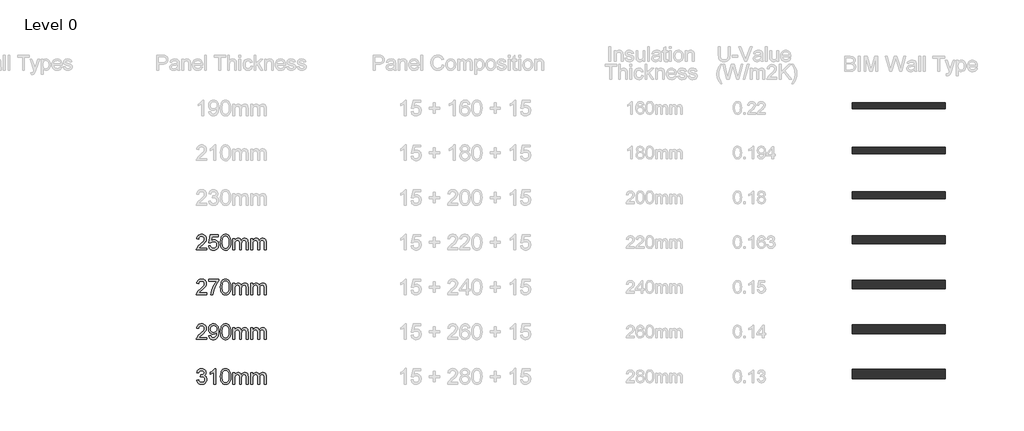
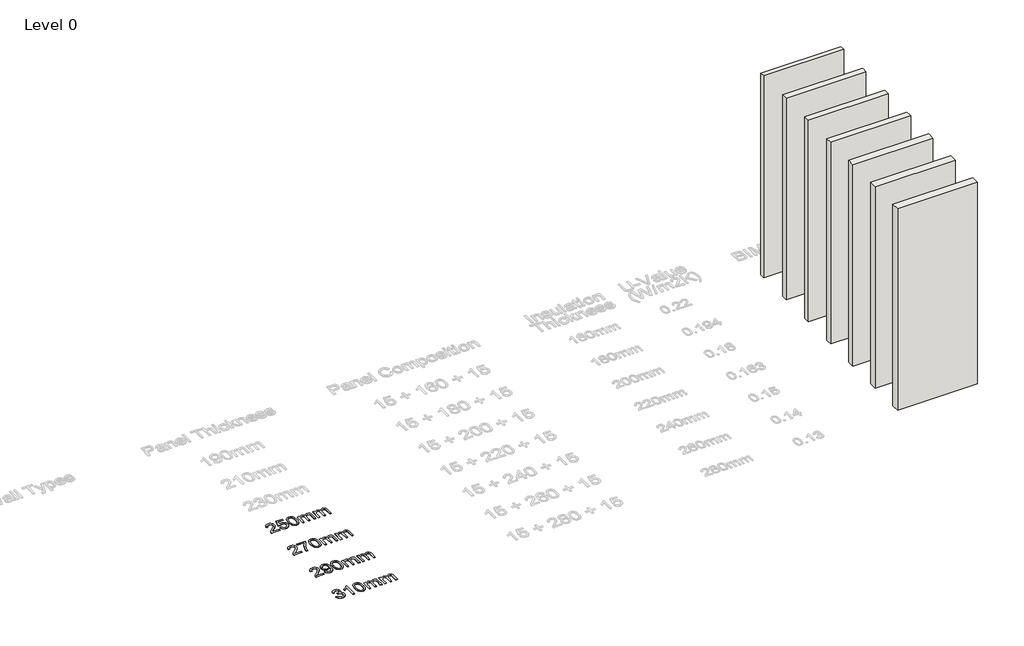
# One storey, part 1 of 11: 7 walls, 4 proxies.
"""IFC4 building model written with IfcOpenShell, lengths in millimetres."""

from ifc_helpers import new_model, si_unit, origin, origin_with_axes, place, context, project, spatial, polyline, outline, extrude, element, save

model = new_model("IFC4")

# Units and contexts
model_context = context("Model", 3, world=origin())
ifc_project = project(units=[si_unit("LENGTHUNIT", "METRE", prefix="MILLI")], contexts=[model_context])

# Site, building, storey
site = spatial("IfcSite", under=ifc_project)
building = spatial("IfcBuilding", under=site)
storey = spatial("IfcBuildingStorey", under=building, Name="Level 0", Elevation=0.0)

# Proxies
placement = place(None, origin())
element("IfcBuildingElementProxy", 1, Name="600mm Arial-500", ObjectType="600mm Arial-500", at=placement, inside=storey, context=model_context, shape_type="SweptSolid", body=[
    extrude(outline(polyline([(20710.5117881, -49.7161207), (20710.5117881, -112.5013146), (20380.8895204, -112.5013146), (20382.2690779, -90.397738), (20387.6340237, -69.2138665), (20403.1310527, -35.3840513), (20425.8324375, -2.5659117), (20458.6505771, 31.7850696), (20504.4978708, 70.2134097), (20572.2341432, 130.3927727), (20612.8391184, 174.8145237), (20633.1186134, 210.8669592), (20638.1884871, 228.525295), (20639.878445, 245.9383761), (20638.2804576, 262.3206212), (20633.4864954, 277.3769582), (20625.4965583, 291.1073873), (20614.3106464, 303.5119083), (20600.5495605, 313.7857794), (20584.8341015, 321.1242588), (20567.1642694, 325.5273465), (20547.5400642, 326.9950423), (20508.3759602, 321.2622146), (20492.0703571, 314.0961799), (20477.9490535, 304.0637313), (20466.5255511, 291.502094), (20458.313352, 276.7484932), (20453.3124561, 259.8029288), (20451.5228635, 240.6654008), (20388.7376696, 248.51355), (20394.1371043, 280.9254867), (20403.9587872, 309.2447361), (20418.2027182, 333.4712983), (20436.8688973, 353.6051733), (20459.528129, 369.4317633), (20485.7512175, 380.7364705), (20515.5381628, 387.5192948), (20548.8889649, 389.7802362), (20582.5386711, 387.2663759), (20612.4865648, 379.724795), (20638.7326459, 367.1554935), (20661.2769144, 349.5584714), (20679.3836064, 328.2366441), (20692.3169577, 304.492927), (20700.0769686, 278.3273201), (20702.6636389, 249.7398234), (20699.8738671, 219.7114555), (20691.5045517, 190.2042538), (20676.6513161, 160.1912144), (20654.4097838, 128.6453333), (20618.9551565, 90.983414), (20564.462636, 42.6222601), (20492.2351376, -17.7717008), (20463.908224, -49.7161207), (20710.5117881, -49.7161207)])), origin_with_axes(), (0.0, 0.0, 1.0), 8.0),
    extrude(outline(polyline([(20773.2969819, 20.9172224), (20836.0821758, 28.7653716), (20847.609145, -8.9272045), (20856.591597, -23.7612795), (20867.7200274, -35.9205459), (20880.9714434, -45.3896752), (20896.3228525, -52.1533389), (20933.3256498, -57.56427), (20957.2379795, -55.6827068), (20978.3298806, -50.0380175), (20996.601353, -40.6302019), (21012.0523968, -27.45926), (21024.3381226, -11.1766496), (21033.113641, 7.5661716), (21038.3789521, 28.7692037), (21040.1340558, 52.4324466), (21038.4900831, 74.7966062), (21033.5581651, 94.6775624), (21025.3383018, 112.0753151), (21013.8304931, 126.9898643), (20998.9964181, 138.9536933), (20980.7977556, 147.4992855), (20959.2345058, 152.6266408), (20934.3066685, 154.3357593), (20903.849105, 151.6073011), (20879.1856829, 143.4219267), (20859.4886677, 130.8832821), (20843.930325, 115.0950131), (20781.1451312, 122.9431623), (20836.0821758, 381.932087), (21079.3748019, 381.932087), (21079.3748019, 319.1468931), (20886.8498911, 319.1468931), (20859.8718781, 180.8232629), (20882.0291041, 196.7035024), (20904.7228247, 208.0465306), (20927.9530399, 214.8523475), (20951.7197496, 217.1209531), (20982.2999404, 214.3081887), (21010.3969278, 205.8698954), (21036.0107117, 191.8060733), (21059.1412922, 172.1167224), (21078.2941486, 148.0051233), (21091.9747603, 120.6745567), (21100.1831273, 90.1250227), (21102.9192496, 56.3565212), (21100.4590388, 23.8296215), (21093.0784062, -6.4286726), (21080.777352, -34.4183611), (21063.5558761, -60.1394439), (21037.4669113, -86.4813276), (21007.0246762, -105.2969588), (20972.2291708, -116.5863376), (20933.0803952, -120.3494638), (20900.6799549, -117.9314061), (20871.4141757, -110.677233), (20845.2830578, -98.5869445), (20822.286601, -81.6605406), (20803.1529051, -60.7410843), (20788.61007, -36.6716383), (20778.6580956, -9.4522028), (20773.2969819, 20.9172224)])), origin_with_axes(), (0.0, 0.0, 1.0), 8.0),
    extrude(outline(polyline([(21157.8562942, 134.5927589), (21162.4701476, 214.9903032), (21176.3117077, 279.1090693), (21186.6583888, 305.3091651), (21199.2430187, 327.9300757), (21214.0655974, 346.9718011), (21231.1261249, 362.4343412), (21250.4820828, 374.3981703), (21272.1909526, 382.9437624), (21296.2527344, 388.0711177), (21322.6674281, 389.7802362), (21361.3563512, 385.7335342), (21395.9985724, 373.5934284), (21424.9692796, 353.8350996), (21446.6436604, 326.9337287), (21463.0144092, 293.1192419), (21476.0742201, 252.6215656), (21484.6274764, 201.1947284), (21487.4785619, 134.5927589), (21482.9106938, 54.655067), (21469.2070895, -9.3104149), (21458.9408826, -35.5220071), (21446.4137342, -58.1774066), (21431.6256444, -77.2766135), (21414.5766132, -92.8196278), (21395.1976627, -104.8639311), (21373.419815, -113.4670048), (21349.2430701, -118.628849), (21322.6674281, -120.3494638), (21288.0865205, -117.3604226), (21257.4296876, -108.393299), (21230.6969293, -93.4480929), (21207.8882456, -72.5248044), (21185.9992669, -34.7019368), (21170.3642821, 12.4252796), (21160.9832912, 68.8568448), (21157.8562942, 134.5927589)]), holes=[polyline([(21220.6414881, 134.7153862), (21222.480898, 80.1347273), (21227.999128, 35.9543989), (21237.1961779, 2.1744011), (21250.0720477, -21.2052661), (21265.6457188, -37.1123303), (21282.9361726, -48.474519), (21301.943409, -55.2918322), (21322.6674281, -57.56427), (21343.3914471, -55.284168), (21362.3986835, -48.4438622), (21379.6891373, -37.0433524), (21395.2628084, -21.0826388), (21408.1386783, 2.3353495), (21417.3357282, 36.1076831), (21422.8539581, 80.234362), (21424.6933681, 134.7153862), (21422.9152718, 187.8513419), (21417.5809828, 231.2537531), (21408.6905013, 264.9226199), (21396.2438271, 288.8579422), (21380.9307391, 305.5429235), (21363.4410159, 317.4607673), (21343.7746575, 324.6114736), (21321.9316641, 326.9950423), (21301.3149439, 324.8950493), (21282.6296043, 318.5950701), (21265.8756451, 308.0951048), (21251.0530663, 293.3951534), (21237.7480008, 267.3368455), (21228.2443826, 232.2041149), (21222.5422117, 187.9969618), (21220.6414881, 134.7153862)])]), origin_with_axes(), (0.0, 0.0, 1.0), 8.0),
    extrude(outline(polyline([(21558.111905, -112.5013146), (21558.111905, 256.3616993), (21620.8970988, 256.3616993), (21620.8970988, 195.6611701), (21639.7817079, 223.5435596), (21664.0619196, 245.3865531), (21692.9099994, 259.5040246), (21725.4982128, 264.2098485), (21760.4163455, 259.4120541), (21788.406034, 245.0186711), (21809.313994, 221.9800611), (21822.9869415, 191.2465861), (21845.8722673, 223.1680134), (21871.9765605, 245.9690329), (21901.2998212, 259.6496446), (21933.8420494, 264.2098485), (21958.9768203, 262.312957), (21981.0382437, 256.6222823), (22000.0263196, 247.1378247), (22015.941048, 233.8595839), (22028.5218458, 216.6342759), (22037.5081299, 195.3086165), (22042.8999004, 169.8826057), (22044.6971573, 140.3562435), (22044.6971573, -112.5013146), (21981.9119634, -112.5013146), (21981.9119634, 113.3782305), (21980.4557639, 144.6941853), (21976.0871652, 165.8014148), (21967.9017908, 180.2561115), (21954.9952641, 191.6144681), (21938.3945891, 198.972108), (21919.1267696, 201.4246547), (21901.3343102, 199.853492), (21885.1130134, 195.1400039), (21870.4628794, 187.2841905), (21857.3839081, 176.2860516), (21846.6271918, 161.8236907), (21838.943823, 143.5752109), (21834.3338018, 121.5406122), (21832.797128, 95.7198947), (21832.797128, -112.5013146), (21770.0119342, -112.5013146), (21770.0119342, 120.3679884), (21766.3790995, 155.8686009), (21755.4805954, 181.1911449), (21747.0537984, 190.0433054), (21736.3047464, 196.3662772), (21707.839877, 201.4246547), (21683.6516358, 198.052403), (21661.3641183, 187.9356482), (21642.9700185, 171.3196447), (21630.4620307, 148.4496473), (21623.2883318, 116.7198253), (21620.8970988, 73.5243477), (21620.8970988, -112.5013146), (21558.111905, -112.5013146)])), origin_with_axes(), (0.0, 0.0, 1.0), 8.0),
    extrude(outline(polyline([(22138.874948, -112.5013146), (22138.874948, 256.3616993), (22201.6601419, 256.3616993), (22201.6601419, 195.6611701), (22220.544751, 223.5435596), (22244.8249626, 245.3865531), (22273.6730424, 259.5040246), (22306.2612558, 264.2098485), (22341.1793885, 259.4120541), (22369.169077, 245.0186711), (22390.0770371, 221.9800611), (22403.7499846, 191.2465861), (22426.6353103, 223.1680134), (22452.7396036, 245.9690329), (22482.0628643, 259.6496446), (22514.6050924, 264.2098485), (22539.7398633, 262.312957), (22561.8012867, 256.6222823), (22580.7893626, 247.1378247), (22596.704091, 233.8595839), (22609.2848888, 216.6342759), (22618.271173, 195.3086165), (22623.6629435, 169.8826057), (22625.4602003, 140.3562435), (22625.4602003, -112.5013146), (22562.6750065, -112.5013146), (22562.6750065, 113.3782305), (22561.2188069, 144.6941853), (22556.8502082, 165.8014148), (22548.6648338, 180.2561115), (22535.7583072, 191.6144681), (22519.1576321, 198.972108), (22499.8898126, 201.4246547), (22482.0973532, 199.853492), (22465.8760565, 195.1400039), (22451.2259225, 187.2841905), (22438.1469511, 176.2860516), (22427.3902349, 161.8236907), (22419.7068661, 143.5752109), (22415.0968448, 121.5406122), (22413.5601711, 95.7198947), (22413.5601711, -112.5013146), (22350.7749773, -112.5013146), (22350.7749773, 120.3679884), (22347.1421426, 155.8686009), (22336.2436384, 181.1911449), (22327.8168415, 190.0433054), (22317.0677894, 196.3662772), (22288.6029201, 201.4246547), (22264.4146789, 198.052403), (22242.1271613, 187.9356482), (22223.7330616, 171.3196447), (22211.2250738, 148.4496473), (22204.0513748, 116.7198253), (22201.6601419, 73.5243477), (22201.6601419, -112.5013146), (22138.874948, -112.5013146)])), origin_with_axes(), (0.0, 0.0, 1.0), 8.0),
])
element("IfcBuildingElementProxy", 2, Name="600mm Arial-500", ObjectType="600mm Arial-500", at=placement, inside=storey, context=model_context, shape_type="SweptSolid", body=[
    extrude(outline(polyline([(20710.5117881, -1489.7161207), (20710.5117881, -1552.5013146), (20380.8895204, -1552.5013146), (20382.2690779, -1530.397738), (20387.6340237, -1509.2138665), (20403.1310527, -1475.3840513), (20425.8324375, -1442.5659117), (20458.6505771, -1408.2149304), (20504.4978708, -1369.7865903), (20572.2341432, -1309.6072273), (20612.8391184, -1265.1854763), (20633.1186134, -1229.1330408), (20638.1884871, -1211.474705), (20639.878445, -1194.0616239), (20638.2804576, -1177.6793788), (20633.4864954, -1162.6230418), (20625.4965583, -1148.8926127), (20614.3106464, -1136.4880917), (20600.5495605, -1126.2142206), (20584.8341015, -1118.8757412), (20567.1642694, -1114.4726535), (20547.5400642, -1113.0049577), (20508.3759602, -1118.7377854), (20492.0703571, -1125.9038201), (20477.9490535, -1135.9362687), (20466.5255511, -1148.497906), (20458.313352, -1163.2515068), (20453.3124561, -1180.1970712), (20451.5228635, -1199.3345992), (20388.7376696, -1191.48645), (20394.1371043, -1159.0745133), (20403.9587872, -1130.7552639), (20418.2027182, -1106.5287017), (20436.8688973, -1086.3948267), (20459.528129, -1070.5682367), (20485.7512175, -1059.2635295), (20515.5381628, -1052.4807052), (20548.8889649, -1050.2197638), (20582.5386711, -1052.7336241), (20612.4865648, -1060.275205), (20638.7326459, -1072.8445065), (20661.2769144, -1090.4415286), (20679.3836064, -1111.7633559), (20692.3169577, -1135.507073), (20700.0769686, -1161.6726799), (20702.6636389, -1190.2601766), (20699.8738671, -1220.2885445), (20691.5045517, -1249.7957462), (20676.6513161, -1279.8087856), (20654.4097838, -1311.3546667), (20618.9551565, -1349.016586), (20564.462636, -1397.3777399), (20492.2351376, -1457.7717008), (20463.908224, -1489.7161207), (20710.5117881, -1489.7161207)])), origin_with_axes(), (0.0, 0.0, 1.0), 8.0),
    extrude(outline(polyline([(20773.2969819, -1120.8531069), (20773.2969819, -1058.067913), (21102.9192496, -1058.067913), (21102.9192496, -1108.8356284), (21055.9376531, -1168.2945559), (21009.4159092, -1243.9096343), (20968.3817383, -1328.7830762), (20937.8628611, -1416.0170944), (20922.9023266, -1481.2854917), (20914.5636681, -1552.5013146), (20851.7784742, -1552.5013146), (20858.5689627, -1487.7847402), (20876.7331362, -1410.8667464), (20905.7804855, -1329.3348992), (20945.220501, -1250.7767649), (20991.2670641, -1179.7602114), (21040.1340558, -1120.8531069), (20773.2969819, -1120.8531069)])), origin_with_axes(), (0.0, 0.0, 1.0), 8.0),
    extrude(outline(polyline([(21157.8562942, -1305.4072411), (21162.4701476, -1225.0096968), (21176.3117077, -1160.8909307), (21186.6583888, -1134.6908349), (21199.2430187, -1112.0699243), (21214.0655974, -1093.0281989), (21231.1261249, -1077.5656588), (21250.4820828, -1065.6018297), (21272.1909526, -1057.0562376), (21296.2527344, -1051.9288823), (21322.6674281, -1050.2197638), (21361.3563512, -1054.2664658), (21395.9985724, -1066.4065716), (21424.9692796, -1086.1649004), (21446.6436604, -1113.0662713), (21463.0144092, -1146.8807581), (21476.0742201, -1187.3784344), (21484.6274764, -1238.8052716), (21487.4785619, -1305.4072411), (21482.9106938, -1385.344933), (21469.2070895, -1449.3104149), (21458.9408826, -1475.5220071), (21446.4137342, -1498.1774066), (21431.6256444, -1517.2766135), (21414.5766132, -1532.8196278), (21395.1976627, -1544.8639311), (21373.419815, -1553.4670048), (21349.2430701, -1558.628849), (21322.6674281, -1560.3494638), (21288.0865205, -1557.3604226), (21257.4296876, -1548.393299), (21230.6969293, -1533.4480929), (21207.8882456, -1512.5248044), (21185.9992669, -1474.7019368), (21170.3642821, -1427.5747204), (21160.9832912, -1371.1431552), (21157.8562942, -1305.4072411)]), holes=[polyline([(21220.6414881, -1305.2846138), (21222.480898, -1359.8652727), (21227.999128, -1404.0456011), (21237.1961779, -1437.8255989), (21250.0720477, -1461.2052661), (21265.6457188, -1477.1123303), (21282.9361726, -1488.474519), (21301.943409, -1495.2918322), (21322.6674281, -1497.56427), (21343.3914471, -1495.284168), (21362.3986835, -1488.4438622), (21379.6891373, -1477.0433524), (21395.2628084, -1461.0826388), (21408.1386783, -1437.6646505), (21417.3357282, -1403.8923169), (21422.8539581, -1359.765638), (21424.6933681, -1305.2846138), (21422.9152718, -1252.1486581), (21417.5809828, -1208.7462469), (21408.6905013, -1175.0773801), (21396.2438271, -1151.1420578), (21380.9307391, -1134.4570765), (21363.4410159, -1122.5392327), (21343.7746575, -1115.3885264), (21321.9316641, -1113.0049577), (21301.3149439, -1115.1049507), (21282.6296043, -1121.4049299), (21265.8756451, -1131.9048952), (21251.0530663, -1146.6048466), (21237.7480008, -1172.6631545), (21228.2443826, -1207.7958851), (21222.5422117, -1252.0030382), (21220.6414881, -1305.2846138)])]), origin_with_axes(), (0.0, 0.0, 1.0), 8.0),
    extrude(outline(polyline([(21558.111905, -1552.5013146), (21558.111905, -1183.6383007), (21620.8970988, -1183.6383007), (21620.8970988, -1244.3388299), (21639.7817079, -1216.4564404), (21664.0619196, -1194.6134469), (21692.9099994, -1180.4959754), (21725.4982128, -1175.7901515), (21760.4163455, -1180.5879459), (21788.406034, -1194.9813289), (21809.313994, -1218.0199389), (21822.9869415, -1248.7534139), (21845.8722673, -1216.8319866), (21871.9765605, -1194.0309671), (21901.2998212, -1180.3503554), (21933.8420494, -1175.7901515), (21958.9768203, -1177.687043), (21981.0382437, -1183.3777177), (22000.0263196, -1192.8621753), (22015.941048, -1206.1404161), (22028.5218458, -1223.3657241), (22037.5081299, -1244.6913835), (22042.8999004, -1270.1173943), (22044.6971573, -1299.6437565), (22044.6971573, -1552.5013146), (21981.9119634, -1552.5013146), (21981.9119634, -1326.6217695), (21980.4557639, -1295.3058147), (21976.0871652, -1274.1985852), (21967.9017908, -1259.7438885), (21954.9952641, -1248.3855319), (21938.3945891, -1241.027892), (21919.1267696, -1238.5753453), (21901.3343102, -1240.146508), (21885.1130134, -1244.8599961), (21870.4628794, -1252.7158095), (21857.3839081, -1263.7139484), (21846.6271918, -1278.1763093), (21838.943823, -1296.4247891), (21834.3338018, -1318.4593878), (21832.797128, -1344.2801053), (21832.797128, -1552.5013146), (21770.0119342, -1552.5013146), (21770.0119342, -1319.6320116), (21766.3790995, -1284.1313991), (21755.4805954, -1258.8088551), (21747.0537984, -1249.9566946), (21736.3047464, -1243.6337228), (21707.839877, -1238.5753453), (21683.6516358, -1241.947597), (21661.3641183, -1252.0643518), (21642.9700185, -1268.6803553), (21630.4620307, -1291.5503527), (21623.2883318, -1323.2801747), (21620.8970988, -1366.4756523), (21620.8970988, -1552.5013146), (21558.111905, -1552.5013146)])), origin_with_axes(), (0.0, 0.0, 1.0), 8.0),
    extrude(outline(polyline([(22138.874948, -1552.5013146), (22138.874948, -1183.6383007), (22201.6601419, -1183.6383007), (22201.6601419, -1244.3388299), (22220.544751, -1216.4564404), (22244.8249626, -1194.6134469), (22273.6730424, -1180.4959754), (22306.2612558, -1175.7901515), (22341.1793885, -1180.5879459), (22369.169077, -1194.9813289), (22390.0770371, -1218.0199389), (22403.7499846, -1248.7534139), (22426.6353103, -1216.8319866), (22452.7396036, -1194.0309671), (22482.0628643, -1180.3503554), (22514.6050924, -1175.7901515), (22539.7398633, -1177.687043), (22561.8012867, -1183.3777177), (22580.7893626, -1192.8621753), (22596.704091, -1206.1404161), (22609.2848888, -1223.3657241), (22618.271173, -1244.6913835), (22623.6629435, -1270.1173943), (22625.4602003, -1299.6437565), (22625.4602003, -1552.5013146), (22562.6750065, -1552.5013146), (22562.6750065, -1326.6217695), (22561.2188069, -1295.3058147), (22556.8502082, -1274.1985852), (22548.6648338, -1259.7438885), (22535.7583072, -1248.3855319), (22519.1576321, -1241.027892), (22499.8898126, -1238.5753453), (22482.0973532, -1240.146508), (22465.8760565, -1244.8599961), (22451.2259225, -1252.7158095), (22438.1469511, -1263.7139484), (22427.3902349, -1278.1763093), (22419.7068661, -1296.4247891), (22415.0968448, -1318.4593878), (22413.5601711, -1344.2801053), (22413.5601711, -1552.5013146), (22350.7749773, -1552.5013146), (22350.7749773, -1319.6320116), (22347.1421426, -1284.1313991), (22336.2436384, -1258.8088551), (22327.8168415, -1249.9566946), (22317.0677894, -1243.6337228), (22288.6029201, -1238.5753453), (22264.4146789, -1241.947597), (22242.1271613, -1252.0643518), (22223.7330616, -1268.6803553), (22211.2250738, -1291.5503527), (22204.0513748, -1323.2801747), (22201.6601419, -1366.4756523), (22201.6601419, -1552.5013146), (22138.874948, -1552.5013146)])), origin_with_axes(), (0.0, 0.0, 1.0), 8.0),
])
element("IfcBuildingElementProxy", 3, Name="600mm Arial-500", ObjectType="600mm Arial-500", at=placement, inside=storey, context=model_context, shape_type="SweptSolid", body=[
    extrude(outline(polyline([(20710.5117881, -2929.7161207), (20710.5117881, -2992.5013146), (20380.8895204, -2992.5013146), (20382.2690779, -2970.397738), (20387.6340237, -2949.2138665), (20403.1310527, -2915.3840513), (20425.8324375, -2882.5659117), (20458.6505771, -2848.2149304), (20504.4978708, -2809.7865903), (20572.2341432, -2749.6072273), (20612.8391184, -2705.1854763), (20633.1186134, -2669.1330408), (20638.1884871, -2651.474705), (20639.878445, -2634.0616239), (20638.2804576, -2617.6793788), (20633.4864954, -2602.6230418), (20625.4965583, -2588.8926127), (20614.3106464, -2576.4880917), (20600.5495605, -2566.2142206), (20584.8341015, -2558.8757412), (20567.1642694, -2554.4726535), (20547.5400642, -2553.0049577), (20508.3759602, -2558.7377854), (20492.0703571, -2565.9038201), (20477.9490535, -2575.9362687), (20466.5255511, -2588.497906), (20458.313352, -2603.2515068), (20453.3124561, -2620.1970712), (20451.5228635, -2639.3345992), (20388.7376696, -2631.48645), (20394.1371043, -2599.0745133), (20403.9587872, -2570.7552639), (20418.2027182, -2546.5287017), (20436.8688973, -2526.3948267), (20459.528129, -2510.5682367), (20485.7512175, -2499.2635295), (20515.5381628, -2492.4807052), (20548.8889649, -2490.2197638), (20582.5386711, -2492.7336241), (20612.4865648, -2500.275205), (20638.7326459, -2512.8445065), (20661.2769144, -2530.4415286), (20679.3836064, -2551.7633559), (20692.3169577, -2575.507073), (20700.0769686, -2601.6726799), (20702.6636389, -2630.2601766), (20699.8738671, -2660.2885445), (20691.5045517, -2689.7957462), (20676.6513161, -2719.8087856), (20654.4097838, -2751.3546667), (20618.9551565, -2789.016586), (20564.462636, -2837.3777399), (20492.2351376, -2897.7717008), (20463.908224, -2929.7161207), (20710.5117881, -2929.7161207)])), origin_with_axes(), (0.0, 0.0, 1.0), 8.0),
    extrude(outline(polyline([(20781.1451312, -2866.9309269), (20843.930325, -2859.0827776), (20854.6602165, -2894.7213459), (20872.1346113, -2918.9862292), (20895.9243137, -2932.9197598), (20925.6001279, -2937.56427), (20952.2255873, -2934.5752287), (20976.4291569, -2925.6081051), (20996.5400393, -2911.6439177), (21010.8874372, -2893.6636852), (21021.7552844, -2870.027267), (21031.4275152, -2839.0945226), (21038.2333321, -2803.59391), (21040.5019378, -2766.2538875), (21040.1340558, -2753.9911544), (21018.3830328, -2780.5399717), (20989.9181634, -2801.5705591), (20956.7934554, -2815.2741634), (20921.0629167, -2819.8420315), (20891.2376503, -2817.0522597), (20863.8112812, -2808.6829443), (20838.7838092, -2794.7340853), (20816.1552344, -2775.2056827), (20797.4047489, -2751.1170763), (20784.011545, -2723.4876056), (20775.9756227, -2692.3172707), (20773.2969819, -2657.6060716), (20776.1059143, -2621.7375771), (20784.5327112, -2589.5479025), (20798.5773728, -2561.0370479), (20818.239899, -2536.2050132), (20842.1330682, -2516.0864666), (20868.8696586, -2501.7160762), (20898.4496703, -2493.0938419), (20930.8731032, -2490.2197638), (20954.8122576, -2491.8599044), (20977.7014155, -2496.7803261), (20999.5405769, -2504.9810289), (21020.3297417, -2516.4620128), (21039.3752992, -2530.9780232), (21055.9836384, -2548.2838054), (21070.1547594, -2568.3793594), (21081.8886622, -2591.2646852), (21091.0895442, -2618.2580266), (21097.6616028, -2650.6776274), (21102.9192496, -2731.7956073), (21097.6769312, -2817.8033521), (21091.1240331, -2853.4840735), (21081.9499759, -2884.2826943), (21070.1892484, -2910.9503069), (21055.8763395, -2934.2380036), (21039.0112493, -2954.1457845), (21019.5939777, -2970.6736495), (20998.0153994, -2983.6568183), (20974.666389, -2992.9305102), (20949.5469466, -2998.4947254), (20922.657072, -3000.3494638), (20894.4604499, -2998.1613323), (20868.9769575, -2991.596938), (20846.2065949, -2980.6562807), (20826.1493619, -2965.3393606), (20809.3110964, -2946.0600448), (20796.1976361, -2923.2322006), (20786.8089811, -2896.8558279), (20781.1451312, -2866.9309269)]), holes=[polyline([(21040.1340558, -2656.1345436), (21038.4402658, -2633.6324283), (21033.3588957, -2613.5828595), (21024.8899456, -2595.9858374), (21013.0334155, -2580.841362), (20998.3717851, -2568.6629351), (20981.4875344, -2559.9640587), (20962.3806632, -2554.7447329), (20941.0511717, -2553.0049577), (20919.0395657, -2554.8788566), (20899.1126243, -2560.5005533), (20881.2703475, -2569.8700479), (20865.5127354, -2582.9873403), (20852.6368656, -2599.0860097), (20843.4398157, -2617.3996352), (20837.9215858, -2637.928217), (20836.0821758, -2660.6717549), (20837.821951, -2681.0700451), (20843.0412769, -2699.467977), (20851.7401532, -2715.8655505), (20863.9185801, -2730.2627657), (20879.0707198, -2741.9851722), (20896.6907345, -2750.3583197), (20916.7786243, -2755.3822082), (20939.3343891, -2757.0568377), (20960.3688086, -2755.3822082), (20979.448855, -2750.3583197), (20996.5745283, -2741.9851722), (21011.7458285, -2730.2627657), (21024.1656779, -2715.5819748), (21033.0369989, -2698.3336742), (21038.3597916, -2678.5178638), (21040.1340558, -2656.1345436)])]), origin_with_axes(), (0.0, 0.0, 1.0), 8.0),
    extrude(outline(polyline([(21157.8562942, -2745.4072411), (21162.4701476, -2665.0096968), (21176.3117077, -2600.8909307), (21186.6583888, -2574.6908349), (21199.2430187, -2552.0699243), (21214.0655974, -2533.0281989), (21231.1261249, -2517.5656588), (21250.4820828, -2505.6018297), (21272.1909526, -2497.0562376), (21296.2527344, -2491.9288823), (21322.6674281, -2490.2197638), (21361.3563512, -2494.2664658), (21395.9985724, -2506.4065716), (21424.9692796, -2526.1649004), (21446.6436604, -2553.0662713), (21463.0144092, -2586.8807581), (21476.0742201, -2627.3784344), (21484.6274764, -2678.8052716), (21487.4785619, -2745.4072411), (21482.9106938, -2825.344933), (21469.2070895, -2889.3104149), (21458.9408826, -2915.5220071), (21446.4137342, -2938.1774066), (21431.6256444, -2957.2766135), (21414.5766132, -2972.8196278), (21395.1976627, -2984.8639311), (21373.419815, -2993.4670048), (21349.2430701, -2998.628849), (21322.6674281, -3000.3494638), (21288.0865205, -2997.3604226), (21257.4296876, -2988.393299), (21230.6969293, -2973.4480929), (21207.8882456, -2952.5248044), (21185.9992669, -2914.7019368), (21170.3642821, -2867.5747204), (21160.9832912, -2811.1431552), (21157.8562942, -2745.4072411)]), holes=[polyline([(21220.6414881, -2745.2846138), (21222.480898, -2799.8652727), (21227.999128, -2844.0456011), (21237.1961779, -2877.8255989), (21250.0720477, -2901.2052661), (21265.6457188, -2917.1123303), (21282.9361726, -2928.474519), (21301.943409, -2935.2918322), (21322.6674281, -2937.56427), (21343.3914471, -2935.284168), (21362.3986835, -2928.4438622), (21379.6891373, -2917.0433524), (21395.2628084, -2901.0826388), (21408.1386783, -2877.6646505), (21417.3357282, -2843.8923169), (21422.8539581, -2799.765638), (21424.6933681, -2745.2846138), (21422.9152718, -2692.1486581), (21417.5809828, -2648.7462469), (21408.6905013, -2615.0773801), (21396.2438271, -2591.1420578), (21380.9307391, -2574.4570765), (21363.4410159, -2562.5392327), (21343.7746575, -2555.3885264), (21321.9316641, -2553.0049577), (21301.3149439, -2555.1049507), (21282.6296043, -2561.4049299), (21265.8756451, -2571.9048952), (21251.0530663, -2586.6048466), (21237.7480008, -2612.6631545), (21228.2443826, -2647.7958851), (21222.5422117, -2692.0030382), (21220.6414881, -2745.2846138)])]), origin_with_axes(), (0.0, 0.0, 1.0), 8.0),
    extrude(outline(polyline([(21558.111905, -2992.5013146), (21558.111905, -2623.6383007), (21620.8970988, -2623.6383007), (21620.8970988, -2684.3388299), (21639.7817079, -2656.4564404), (21664.0619196, -2634.6134469), (21692.9099994, -2620.4959754), (21725.4982128, -2615.7901515), (21760.4163455, -2620.5879459), (21788.406034, -2634.9813289), (21809.313994, -2658.0199389), (21822.9869415, -2688.7534139), (21845.8722673, -2656.8319866), (21871.9765605, -2634.0309671), (21901.2998212, -2620.3503554), (21933.8420494, -2615.7901515), (21958.9768203, -2617.687043), (21981.0382437, -2623.3777177), (22000.0263196, -2632.8621753), (22015.941048, -2646.1404161), (22028.5218458, -2663.3657241), (22037.5081299, -2684.6913835), (22042.8999004, -2710.1173943), (22044.6971573, -2739.6437565), (22044.6971573, -2992.5013146), (21981.9119634, -2992.5013146), (21981.9119634, -2766.6217695), (21980.4557639, -2735.3058147), (21976.0871652, -2714.1985852), (21967.9017908, -2699.7438885), (21954.9952641, -2688.3855319), (21938.3945891, -2681.027892), (21919.1267696, -2678.5753453), (21901.3343102, -2680.146508), (21885.1130134, -2684.8599961), (21870.4628794, -2692.7158095), (21857.3839081, -2703.7139484), (21846.6271918, -2718.1763093), (21838.943823, -2736.4247891), (21834.3338018, -2758.4593878), (21832.797128, -2784.2801053), (21832.797128, -2992.5013146), (21770.0119342, -2992.5013146), (21770.0119342, -2759.6320116), (21766.3790995, -2724.1313991), (21755.4805954, -2698.8088551), (21747.0537984, -2689.9566946), (21736.3047464, -2683.6337228), (21707.839877, -2678.5753453), (21683.6516358, -2681.947597), (21661.3641183, -2692.0643518), (21642.9700185, -2708.6803553), (21630.4620307, -2731.5503527), (21623.2883318, -2763.2801747), (21620.8970988, -2806.4756523), (21620.8970988, -2992.5013146), (21558.111905, -2992.5013146)])), origin_with_axes(), (0.0, 0.0, 1.0), 8.0),
    extrude(outline(polyline([(22138.874948, -2992.5013146), (22138.874948, -2623.6383007), (22201.6601419, -2623.6383007), (22201.6601419, -2684.3388299), (22220.544751, -2656.4564404), (22244.8249626, -2634.6134469), (22273.6730424, -2620.4959754), (22306.2612558, -2615.7901515), (22341.1793885, -2620.5879459), (22369.169077, -2634.9813289), (22390.0770371, -2658.0199389), (22403.7499846, -2688.7534139), (22426.6353103, -2656.8319866), (22452.7396036, -2634.0309671), (22482.0628643, -2620.3503554), (22514.6050924, -2615.7901515), (22539.7398633, -2617.687043), (22561.8012867, -2623.3777177), (22580.7893626, -2632.8621753), (22596.704091, -2646.1404161), (22609.2848888, -2663.3657241), (22618.271173, -2684.6913835), (22623.6629435, -2710.1173943), (22625.4602003, -2739.6437565), (22625.4602003, -2992.5013146), (22562.6750065, -2992.5013146), (22562.6750065, -2766.6217695), (22561.2188069, -2735.3058147), (22556.8502082, -2714.1985852), (22548.6648338, -2699.7438885), (22535.7583072, -2688.3855319), (22519.1576321, -2681.027892), (22499.8898126, -2678.5753453), (22482.0973532, -2680.146508), (22465.8760565, -2684.8599961), (22451.2259225, -2692.7158095), (22438.1469511, -2703.7139484), (22427.3902349, -2718.1763093), (22419.7068661, -2736.4247891), (22415.0968448, -2758.4593878), (22413.5601711, -2784.2801053), (22413.5601711, -2992.5013146), (22350.7749773, -2992.5013146), (22350.7749773, -2759.6320116), (22347.1421426, -2724.1313991), (22336.2436384, -2698.8088551), (22327.8168415, -2689.9566946), (22317.0677894, -2683.6337228), (22288.6029201, -2678.5753453), (22264.4146789, -2681.947597), (22242.1271613, -2692.0643518), (22223.7330616, -2708.6803553), (22211.2250738, -2731.5503527), (22204.0513748, -2763.2801747), (22201.6601419, -2806.4756523), (22201.6601419, -2992.5013146), (22138.874948, -2992.5013146)])), origin_with_axes(), (0.0, 0.0, 1.0), 8.0),
])
element("IfcBuildingElementProxy", 4, Name="600mm Arial-500", ObjectType="600mm Arial-500", at=placement, inside=storey, context=model_context, shape_type="SweptSolid", body=[
    extrude(outline(polyline([(20388.7376696, -4299.0827776), (20451.5228635, -4291.2346284), (20465.5790214, -4330.6899724), (20475.0558149, -4345.6121858), (20486.1650847, -4357.3307602), (20499.1597498, -4366.1829207), (20514.2927289, -4372.5058925), (20550.9736295, -4377.56427), (20573.7209996, -4375.8244947), (20594.015823, -4370.6051689), (20611.8580997, -4361.9062925), (20627.2478299, -4349.7278657), (20639.6408546, -4334.981929), (20648.4930151, -4318.5805234), (20653.8043114, -4300.5236488), (20655.5747435, -4280.8113052), (20653.8196398, -4262.0378272), (20648.5543287, -4244.9581391), (20639.7788103, -4229.5722411), (20627.4930845, -4215.8801331), (20612.5018932, -4204.6405717), (20595.6099783, -4196.6123136), (20576.8173397, -4191.7953587), (20556.1239775, -4190.1897071), (20512.1007654, -4197.0568377), (20519.0905233, -4134.2716438), (20529.1459645, -4135.0074078), (20566.7618985, -4130.5008534), (20600.3924442, -4116.98119), (20614.2340043, -4106.7571363), (20624.1208329, -4094.1111927), (20630.0529301, -4079.0433593), (20632.0302958, -4061.5536361), (20626.297468, -4034.4376674), (20609.0989848, -4012.4413897), (20582.8567358, -3997.8640657), (20549.9926109, -3993.0049577), (20517.0671723, -3997.9100509), (20490.150473, -4012.6253307), (20479.2596331, -4023.6617906), (20470.4994431, -4037.1507971), (20459.3710127, -4071.48645), (20396.5858189, -4063.6383007), (20404.0277651, -4033.6635823), (20415.0718891, -4007.260385), (20429.7181911, -3984.4287086), (20447.9666709, -3965.1685534), (20469.2425129, -3949.8784579), (20492.9709016, -3938.9569612), (20519.1518369, -3932.4040632), (20547.7853189, -3930.2197638), (20587.2559913, -3934.5270488), (20623.5076962, -3947.4489039), (20654.0725587, -3967.8356978), (20676.4827035, -3994.5377993), (20690.2322931, -4025.3019312), (20694.8154896, -4057.8748161), (20690.4622194, -4088.2250807), (20677.4024085, -4115.7549167), (20655.8199981, -4139.2073939), (20625.8989292, -4157.3255822), (20646.8222177, -4163.870816), (20665.200989, -4173.2058216), (20681.0352432, -4185.3305991), (20694.3249803, -4200.2451483), (20704.840274, -4217.5815873), (20712.3511981, -4236.9720341), (20716.8577525, -4258.4164888), (20718.3599373, -4281.9149512), (20715.3555677, -4313.7674006), (20706.3424588, -4343.1059897), (20691.3206107, -4369.9307186), (20670.2900233, -4394.2415871), (20644.6685752, -4414.4137831), (20615.8741448, -4428.8224946), (20583.9067323, -4437.4677215), (20548.7663375, -4440.3494638), (20517.0058586, -4437.889253), (20488.0658083, -4430.5086204), (20461.9461867, -4418.2075662), (20438.6469937, -4400.9860903), (20419.1109269, -4379.8558682), (20404.2806839, -4355.8285754), (20394.1562649, -4328.9042119), (20388.7376696, -4299.0827776)])), origin_with_axes(), (0.0, 0.0, 1.0), 8.0),
    extrude(outline(polyline([(21008.7414589, -4432.5013146), (20945.956265, -4432.5013146), (20945.956265, -4041.0748717), (20919.7446729, -4062.2740717), (20886.4820091, -4083.4426148), (20820.3858773, -4115.1417801), (20820.3858773, -4055.7901515), (20869.6973931, -4028.9654227), (20912.4176898, -3997.0516596), (20946.0942208, -3963.1145456), (20968.2744394, -3930.2197638), (21008.7414589, -3930.2197638), (21008.7414589, -4432.5013146)])), origin_with_axes(), (0.0, 0.0, 1.0), 8.0),
    extrude(outline(polyline([(21157.8562942, -4185.4072411), (21162.4701476, -4105.0096968), (21176.3117077, -4040.8909307), (21186.6583888, -4014.6908349), (21199.2430187, -3992.0699243), (21214.0655974, -3973.0281989), (21231.1261249, -3957.5656588), (21250.4820828, -3945.6018297), (21272.1909526, -3937.0562376), (21296.2527344, -3931.9288823), (21322.6674281, -3930.2197638), (21361.3563512, -3934.2664658), (21395.9985724, -3946.4065716), (21424.9692796, -3966.1649004), (21446.6436604, -3993.0662713), (21463.0144092, -4026.8807581), (21476.0742201, -4067.3784344), (21484.6274764, -4118.8052716), (21487.4785619, -4185.4072411), (21482.9106938, -4265.344933), (21469.2070895, -4329.3104149), (21458.9408826, -4355.5220071), (21446.4137342, -4378.1774066), (21431.6256444, -4397.2766135), (21414.5766132, -4412.8196278), (21395.1976627, -4424.8639311), (21373.419815, -4433.4670048), (21349.2430701, -4438.628849), (21322.6674281, -4440.3494638), (21288.0865205, -4437.3604226), (21257.4296876, -4428.393299), (21230.6969293, -4413.4480929), (21207.8882456, -4392.5248044), (21185.9992669, -4354.7019368), (21170.3642821, -4307.5747204), (21160.9832912, -4251.1431552), (21157.8562942, -4185.4072411)]), holes=[polyline([(21220.6414881, -4185.2846138), (21222.480898, -4239.8652727), (21227.999128, -4284.0456011), (21237.1961779, -4317.8255989), (21250.0720477, -4341.2052661), (21265.6457188, -4357.1123303), (21282.9361726, -4368.474519), (21301.943409, -4375.2918322), (21322.6674281, -4377.56427), (21343.3914471, -4375.284168), (21362.3986835, -4368.4438622), (21379.6891373, -4357.0433524), (21395.2628084, -4341.0826388), (21408.1386783, -4317.6646505), (21417.3357282, -4283.8923169), (21422.8539581, -4239.765638), (21424.6933681, -4185.2846138), (21422.9152718, -4132.1486581), (21417.5809828, -4088.7462469), (21408.6905013, -4055.0773801), (21396.2438271, -4031.1420578), (21380.9307391, -4014.4570765), (21363.4410159, -4002.5392327), (21343.7746575, -3995.3885264), (21321.9316641, -3993.0049577), (21301.3149439, -3995.1049507), (21282.6296043, -4001.4049299), (21265.8756451, -4011.9048952), (21251.0530663, -4026.6048466), (21237.7480008, -4052.6631545), (21228.2443826, -4087.7958851), (21222.5422117, -4132.0030382), (21220.6414881, -4185.2846138)])]), origin_with_axes(), (0.0, 0.0, 1.0), 8.0),
    extrude(outline(polyline([(21558.111905, -4432.5013146), (21558.111905, -4063.6383007), (21620.8970988, -4063.6383007), (21620.8970988, -4124.3388299), (21639.7817079, -4096.4564404), (21664.0619196, -4074.6134469), (21692.9099994, -4060.4959754), (21725.4982128, -4055.7901515), (21760.4163455, -4060.5879459), (21788.406034, -4074.9813289), (21809.313994, -4098.0199389), (21822.9869415, -4128.7534139), (21845.8722673, -4096.8319866), (21871.9765605, -4074.0309671), (21901.2998212, -4060.3503554), (21933.8420494, -4055.7901515), (21958.9768203, -4057.687043), (21981.0382437, -4063.3777177), (22000.0263196, -4072.8621753), (22015.941048, -4086.1404161), (22028.5218458, -4103.3657241), (22037.5081299, -4124.6913835), (22042.8999004, -4150.1173943), (22044.6971573, -4179.6437565), (22044.6971573, -4432.5013146), (21981.9119634, -4432.5013146), (21981.9119634, -4206.6217695), (21980.4557639, -4175.3058147), (21976.0871652, -4154.1985852), (21967.9017908, -4139.7438885), (21954.9952641, -4128.3855319), (21938.3945891, -4121.027892), (21919.1267696, -4118.5753453), (21901.3343102, -4120.146508), (21885.1130134, -4124.8599961), (21870.4628794, -4132.7158095), (21857.3839081, -4143.7139484), (21846.6271918, -4158.1763093), (21838.943823, -4176.4247891), (21834.3338018, -4198.4593878), (21832.797128, -4224.2801053), (21832.797128, -4432.5013146), (21770.0119342, -4432.5013146), (21770.0119342, -4199.6320116), (21766.3790995, -4164.1313991), (21755.4805954, -4138.8088551), (21747.0537984, -4129.9566946), (21736.3047464, -4123.6337228), (21707.839877, -4118.5753453), (21683.6516358, -4121.947597), (21661.3641183, -4132.0643518), (21642.9700185, -4148.6803553), (21630.4620307, -4171.5503527), (21623.2883318, -4203.2801747), (21620.8970988, -4246.4756523), (21620.8970988, -4432.5013146), (21558.111905, -4432.5013146)])), origin_with_axes(), (0.0, 0.0, 1.0), 8.0),
    extrude(outline(polyline([(22138.874948, -4432.5013146), (22138.874948, -4063.6383007), (22201.6601419, -4063.6383007), (22201.6601419, -4124.3388299), (22220.544751, -4096.4564404), (22244.8249626, -4074.6134469), (22273.6730424, -4060.4959754), (22306.2612558, -4055.7901515), (22341.1793885, -4060.5879459), (22369.169077, -4074.9813289), (22390.0770371, -4098.0199389), (22403.7499846, -4128.7534139), (22426.6353103, -4096.8319866), (22452.7396036, -4074.0309671), (22482.0628643, -4060.3503554), (22514.6050924, -4055.7901515), (22539.7398633, -4057.687043), (22561.8012867, -4063.3777177), (22580.7893626, -4072.8621753), (22596.704091, -4086.1404161), (22609.2848888, -4103.3657241), (22618.271173, -4124.6913835), (22623.6629435, -4150.1173943), (22625.4602003, -4179.6437565), (22625.4602003, -4432.5013146), (22562.6750065, -4432.5013146), (22562.6750065, -4206.6217695), (22561.2188069, -4175.3058147), (22556.8502082, -4154.1985852), (22548.6648338, -4139.7438885), (22535.7583072, -4128.3855319), (22519.1576321, -4121.027892), (22499.8898126, -4118.5753453), (22482.0973532, -4120.146508), (22465.8760565, -4124.8599961), (22451.2259225, -4132.7158095), (22438.1469511, -4143.7139484), (22427.3902349, -4158.1763093), (22419.7068661, -4176.4247891), (22415.0968448, -4198.4593878), (22413.5601711, -4224.2801053), (22413.5601711, -4432.5013146), (22350.7749773, -4432.5013146), (22350.7749773, -4199.6320116), (22347.1421426, -4164.1313991), (22336.2436384, -4138.8088551), (22327.8168415, -4129.9566946), (22317.0677894, -4123.6337228), (22288.6029201, -4118.5753453), (22264.4146789, -4121.947597), (22242.1271613, -4132.0643518), (22223.7330616, -4148.6803553), (22211.2250738, -4171.5503527), (22204.0513748, -4203.2801747), (22201.6601419, -4246.4756523), (22201.6601419, -4432.5013146), (22138.874948, -4432.5013146)])), origin_with_axes(), (0.0, 0.0, 1.0), 8.0),
])

# Walls
element("IfcWall", 5, ObjectType="Hyem Frames 160mm", at=placement, inside=storey, context=model_context, shape_type="SweptSolid", body=[
    extrude(outline(polyline([(41488.6012406, 4627.4743421), (44488.6012406, 4627.4743421), (44488.6012406, 4437.4743421), (41488.6012406, 4437.4743421), (41488.6012406, 4627.4743421)])), origin_with_axes(), (0.0, 0.0, 1.0), 8000.0),
])
element("IfcWall", 6, ObjectType="Hyem Frames 180", at=placement, inside=storey, context=model_context, shape_type="SweptSolid", body=[
    extrude(outline(polyline([(41488.6012406, 3197.4743421), (44488.6012406, 3197.4743421), (44488.6012406, 2987.4743421), (41488.6012406, 2987.4743421), (41488.6012406, 3197.4743421)])), origin_with_axes(), (0.0, 0.0, 1.0), 8000.0),
])
element("IfcWall", 7, ObjectType="Hyem Frames 200", at=placement, inside=storey, context=model_context, shape_type="SweptSolid", body=[
    extrude(outline(polyline([(41488.6012406, 1767.4743421), (44488.6012406, 1767.4743421), (44488.6012406, 1537.4743421), (41488.6012406, 1537.4743421), (41488.6012406, 1767.4743421)])), origin_with_axes(), (0.0, 0.0, 1.0), 8000.0),
])
element("IfcWall", 8, ObjectType="Hyem Frames 220mm", at=placement, inside=storey, context=model_context, shape_type="SweptSolid", body=[
    extrude(outline(polyline([(41488.6012406, 337.4743421), (44488.6012406, 337.4743421), (44488.6012406, 87.4743421), (41488.6012406, 87.4743421), (41488.6012406, 337.4743421)])), origin_with_axes(), (0.0, 0.0, 1.0), 8000.0),
])
element("IfcWall", 9, ObjectType="Hyem Frames 240mm", at=placement, inside=storey, context=model_context, shape_type="SweptSolid", body=[
    extrude(outline(polyline([(41488.6012406, -1092.5256579), (44488.6012406, -1092.5256579), (44488.6012406, -1362.5256579), (41488.6012406, -1362.5256579), (41488.6012406, -1092.5256579)])), origin_with_axes(), (0.0, 0.0, 1.0), 8000.0),
])
element("IfcWall", 10, ObjectType="Hyem Frames 260mm", at=placement, inside=storey, context=model_context, shape_type="SweptSolid", body=[
    extrude(outline(polyline([(41488.6012406, -2522.5256579), (44488.6012406, -2522.5256579), (44488.6012406, -2812.5256579), (41488.6012406, -2812.5256579), (41488.6012406, -2522.5256579)])), origin_with_axes(), (0.0, 0.0, 1.0), 8000.0),
])
element("IfcWall", 11, ObjectType="Hyem Frames 280mm", at=placement, inside=storey, context=model_context, shape_type="SweptSolid", body=[
    extrude(outline(polyline([(41488.6012406, -3952.5256579), (44488.6012406, -3952.5256579), (44488.6012406, -4262.5256579), (41488.6012406, -4262.5256579), (41488.6012406, -3952.5256579)])), origin_with_axes(), (0.0, 0.0, 1.0), 8000.0),
])

save(model, "model.ifc")
